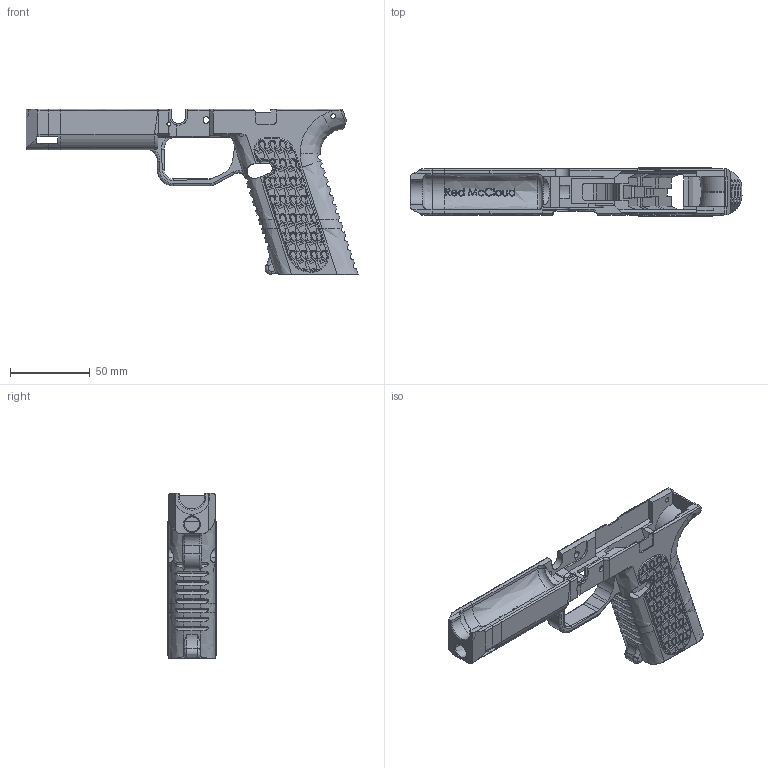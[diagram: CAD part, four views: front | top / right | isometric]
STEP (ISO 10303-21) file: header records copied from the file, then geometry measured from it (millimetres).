
FILE_DESCRIPTION(/* description */ (''),/* implementation_level */ '2;1');
FILE_NAME(/* name */ 'MODELM~2',/* time_stamp */ '2021-06-06T16:57:48-07:00',/* author */ (''),/* organization */ (''),/* preprocessor_version */ 'ST-DEVELOPER v16.5',/* originating_system */ '',/* authorisation */ '');
FILE_SCHEMA (('AUTOMOTIVE_DESIGN'));
Products named in the file (1): Document
Bounding box: 208.12 x 30.5 x 103.63 mm (x, y, z)
Volume: 101730.2 mm3; surface area: 55679.8 mm2
Topology: 4 solids, 4 shells, 1566 faces, 4115 edges, 2677 vertices
Faces by surface type: bspline 1566
Entity records: 123076 total; most frequent: CARTESIAN_POINT 70496, B_SPLINE_CURVE_WITH_KNOTS 10838, ORIENTED_EDGE 8226, PCURVE 8226, DEFINITIONAL_REPRESENTATION 8226, SURFACE_CURVE 4113, EDGE_CURVE 4113, VERTEX_POINT 2677
